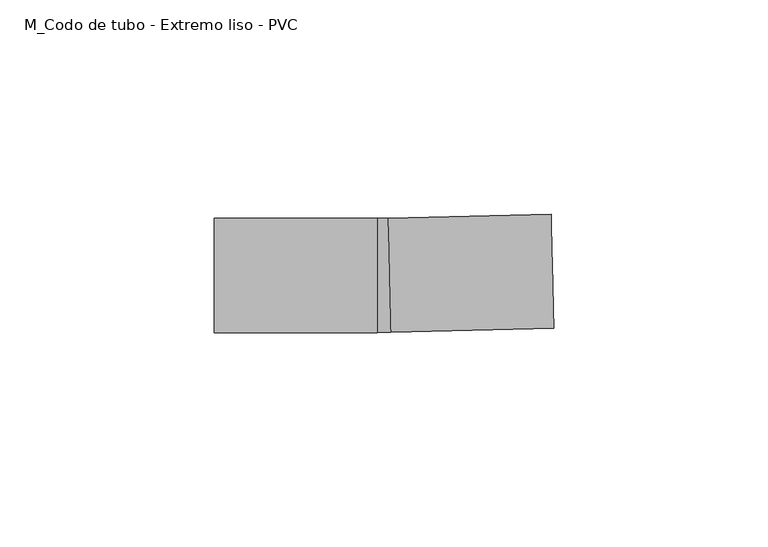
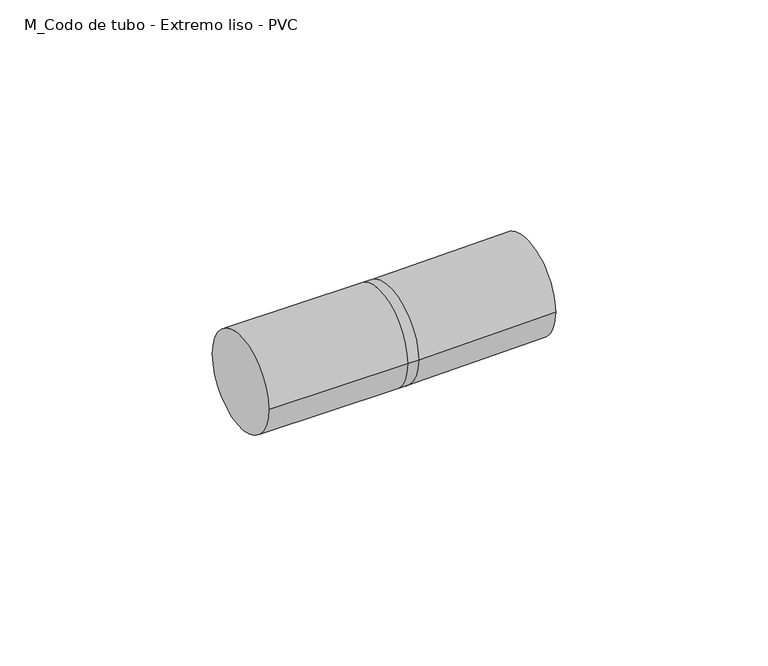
"""IFC4 building model written with IfcOpenShell, lengths in millimetres: cable carrier fitting geometry, M_Codo de tubo - Extremo liso - PVC : CODO ILUMINACION."""

from ifc_helpers import new_model, si_unit, point, frame, origin, place, context, project, spatial, circle_curve, ellipse_curve, trimmed, source, transform, mapped, element, save
from ifc_brep_helpers import plane_surface, cylinder_surface, revolved_surface, advanced_brep


def m_codo_de_tubo_extremo_liso_pvc_b4c5bf2b(model_context):
    return source(origin(), model_context, "Body", "AdvancedBrep", [
        advanced_brep(
        [(-39.4638892, -13.335, 0.0), (-39.4638892, 13.335, 0.0), (-1.3638892, -13.335, 0.0), (-1.3638892, 13.335, 0.0), (1.0453053, 13.3637478, 0.0), (1.6816963, -13.2986584, 0.0), (39.7708481, -12.3895284, 0.0), (39.1344571, 14.2728778, 0.0)],
        [
            (0, 1, circle_curve(frame((-39.4638892, 0.0, 0.0), z_axis=(-1.0, 0.0, 0.0), x_axis=(0.0, 1.0, 0.0)), 13.335)),
            (1, 0, circle_curve(frame((-39.4638892, 0.0, 0.0), z_axis=(-1.0, 0.0, 0.0), x_axis=(0.0, 1.0, 0.0)), 13.335)),
            (0, 2),
            (2, 3, circle_curve(frame((-1.3638892, 0.0, 0.0), z_axis=(-1.0, 0.0, 0.0), x_axis=(0.0, 1.0, 0.0)), 13.335)),
            (3, 1),
            (3, 2, circle_curve(frame((-1.3638892, 0.0, 0.0), z_axis=(-1.0, 0.0, 0.0), x_axis=(0.0, 1.0, 0.0)), 13.335)),
            (4, 3, circle_curve(frame((-1.3638892, 114.3, 0.0), z_axis=(0.0, 0.0, -1.0), x_axis=(0.0, -1.0, 0.0)), 100.965)),
            (2, 5, circle_curve(frame((-1.3638892, 114.3, 0.0), z_axis=(0.0, 0.0, 1.0), x_axis=(0.0, -1.0, 0.0)), 127.635)),
            (5, 4, circle_curve(frame((1.3635008, 0.0325447, 0.0), z_axis=(-0.9997152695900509, -0.02386167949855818, 0.0), x_axis=(-0.02386167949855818, 0.9997152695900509, 0.0)), 13.335)),
            (4, 5, circle_curve(frame((1.3635008, 0.0325447, 0.0), z_axis=(-0.9997152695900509, -0.02386167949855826, 0.0), x_axis=(-0.02386167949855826, 0.9997152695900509, 0.0)), 13.335)),
            (6, 7, circle_curve(frame((39.4526526, 0.9416747, 0.0), z_axis=(0.9997152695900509, 0.023861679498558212, 0.0), x_axis=(-0.023861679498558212, 0.9997152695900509, 0.0)), 13.335)),
            (7, 6, circle_curve(frame((39.4526526, 0.9416747, 0.0), z_axis=(0.9997152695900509, 0.023861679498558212, 0.0), x_axis=(-0.023861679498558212, 0.9997152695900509, 0.0)), 13.335)),
            (5, 6),
            (7, 4),
        ],
        [
            plane_surface(frame((-39.4638892, 0.0, 0.0), z_axis=(-1.0, 0.0, 0.0), x_axis=(0.0, 0.0, 1.0))),
            cylinder_surface(frame((-39.4638892, 0.0, 0.0), z_axis=(-1.0, 0.0, 0.0), x_axis=(0.0, 1.0, 0.0)), 13.335),
            revolved_surface(trimmed(ellipse_curve(frame((-1.3638892, 0.0, 0.0), z_axis=(-1.0, 0.0, 0.0), x_axis=(0.0, 1.0, 0.0)), 13.335, 13.335), [point((-1.3638892, -13.335, 0.0))], [point((-1.3638892, 13.335, 0.0))], True, "CARTESIAN"), (-1.3638892, 114.3, 0.0), (0.0, 0.0, 1.0)),
            revolved_surface(trimmed(ellipse_curve(frame((-1.3638892, 0.0, 0.0), z_axis=(-1.0, 0.0, 0.0), x_axis=(0.0, 1.0, 0.0)), 13.335, 13.335), [point((-1.3638892, 13.335, 0.0))], [point((-1.3638892, -13.335, 0.0))], True, "CARTESIAN"), (-1.3638892, 114.3, 0.0), (0.0, 0.0, 1.0)),
            plane_surface(frame((39.4526526, 0.9416747, 0.0), z_axis=(0.9997152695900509, 0.02386167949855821, 0.0), x_axis=(0.0, 0.0, 1.0))),
            cylinder_surface(frame((1.3635008, 0.0325447, 0.0), z_axis=(-0.9997152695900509, -0.023861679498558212, 0.0), x_axis=(-0.023861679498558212, 0.9997152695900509, 0.0)), 13.335),
        ],
        [
            (0, [[1, 2]]),
            (1, [[-1, 3, 4, 5]]),
            (1, [[-2, -5, 6, -3]]),
            (2, [[7, -4, 8, 9]]),
            (3, [[-8, -6, -7, 10]]),
            (4, [[11, 12]]),
            (5, [[-9, 13, -12, 14]]),
            (5, [[-10, -14, -11, -13]]),
        ],
    ),
    ])


if __name__ == "__main__":
    model = new_model("IFC4")
    model_context = context("Model", 3, world=origin())
    ifc_project = project(units=[si_unit("LENGTHUNIT", "METRE", prefix="MILLI")], contexts=[model_context])
    site = spatial("IfcSite", under=ifc_project)
    building = spatial("IfcBuilding", under=site)
    placement = place(None, origin())
    m_codo_de_tubo_extremo_liso_pvc_shape = m_codo_de_tubo_extremo_liso_pvc_b4c5bf2b(model_context)
    element("IfcCableCarrierFitting", 1, ObjectType="M_Codo de tubo - Extremo liso - PVC : CODO ILUMINACION", at=placement, inside=building, context=model_context, shape_type="MappedRepresentation", body=[
        mapped(m_codo_de_tubo_extremo_liso_pvc_shape, transform((0.0, 0.0, 0.0), x_axis=(1.0, 0.0, 0.0), y_axis=(0.0, 1.0, 0.0), z_axis=(0.0, 0.0, 1.0))),
    ])
    save(model, "model.ifc")
